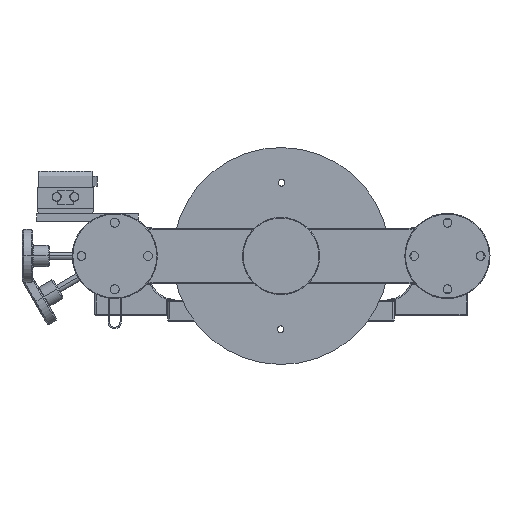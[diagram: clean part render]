
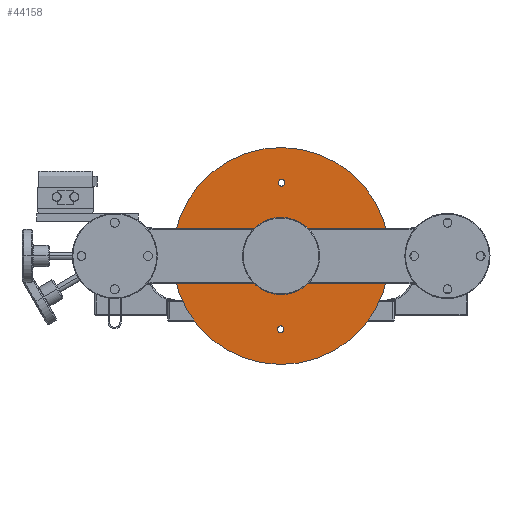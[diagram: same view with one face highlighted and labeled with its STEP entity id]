
A CAD part, front view. The second image highlights one B-rep face of the part: STEP entity #44158.
In plain terms, the highlighted planar face has unit normal (0, -1, 0).
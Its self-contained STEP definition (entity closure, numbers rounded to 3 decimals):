
#278 = DIRECTION ( 'NONE',  ( 0., 1., 0. ) ) ;
#563 = EDGE_LOOP ( 'NONE', ( #15260, #5846 ) ) ;
#1085 = DIRECTION ( 'NONE',  ( 0., 0., 1. ) ) ;
#1777 = DIRECTION ( 'NONE',  ( 0., 0., 1. ) ) ;
#1778 = FACE_BOUND ( 'NONE', #44290, .T. ) ;
#1800 = CIRCLE ( 'NONE', #10730, 5.1 ) ;
#2670 = AXIS2_PLACEMENT_3D ( 'NONE', #29803, #6125, #33802 ) ;
#2733 = ORIENTED_EDGE ( 'NONE', *, *, #40631, .F. ) ;
#3628 = DIRECTION ( 'NONE',  ( 0., 0., 1. ) ) ;
#3715 = CARTESIAN_POINT ( 'NONE',  ( 0., -6.85, -55. ) ) ;
#3718 = ORIENTED_EDGE ( 'NONE', *, *, #46918, .T. ) ;
#5672 = CIRCLE ( 'NONE', #29832, 5.1 ) ;
#5846 = ORIENTED_EDGE ( 'NONE', *, *, #37529, .T. ) ;
#6125 = DIRECTION ( 'NONE',  ( 0., 1., 0. ) ) ;
#6214 = CARTESIAN_POINT ( 'NONE',  ( 0., -6.85, 0. ) ) ;
#6755 = VERTEX_POINT ( 'NONE', #27025 ) ;
#6803 = VERTEX_POINT ( 'NONE', #15450 ) ;
#7701 = DIRECTION ( 'NONE',  ( 0., 0., 1. ) ) ;
#8493 = EDGE_CURVE ( 'NONE', #14677, #23512, #19797, .T. ) ;
#9701 = DIRECTION ( 'NONE',  ( 0., 1., 0. ) ) ;
#9834 = CARTESIAN_POINT ( 'NONE',  ( 0., -6.85, -52.5 ) ) ;
#10190 = DIRECTION ( 'NONE',  ( 0., 0., 1. ) ) ;
#10730 = AXIS2_PLACEMENT_3D ( 'NONE', #33417, #9701, #37394 ) ;
#10743 = ORIENTED_EDGE ( 'NONE', *, *, #36026, .T. ) ;
#10805 = AXIS2_PLACEMENT_3D ( 'NONE', #51115, #27356, #3628 ) ;
#11557 = AXIS2_PLACEMENT_3D ( 'NONE', #36772, #13059, #40754 ) ;
#12017 = ORIENTED_EDGE ( 'NONE', *, *, #8493, .F. ) ;
#12306 = FACE_BOUND ( 'NONE', #20049, .T. ) ;
#12410 = CARTESIAN_POINT ( 'NONE',  ( 0., -6.85, 0. ) ) ;
#12823 = EDGE_CURVE ( 'NONE', #43390, #17070, #29440, .T. ) ;
#13059 = DIRECTION ( 'NONE',  ( 0., 1., 0. ) ) ;
#13845 = DIRECTION ( 'NONE',  ( 0., 1., 0. ) ) ;
#14212 = EDGE_CURVE ( 'NONE', #6803, #46799, #33792, .T. ) ;
#14638 = CIRCLE ( 'NONE', #35273, 81.5 ) ;
#14677 = VERTEX_POINT ( 'NONE', #29093 ) ;
#15182 = AXIS2_PLACEMENT_3D ( 'NONE', #48549, #24805, #1085 ) ;
#15260 = ORIENTED_EDGE ( 'NONE', *, *, #14212, .T. ) ;
#15450 = CARTESIAN_POINT ( 'NONE',  ( -55., -6.85, 2.5 ) ) ;
#16251 = CARTESIAN_POINT ( 'NONE',  ( 0., -6.85, -55. ) ) ;
#16418 = DIRECTION ( 'NONE',  ( 0., 0., 1. ) ) ;
#16937 = CIRCLE ( 'NONE', #48615, 2.5 ) ;
#17070 = VERTEX_POINT ( 'NONE', #9834 ) ;
#19797 = CIRCLE ( 'NONE', #49217, 81.5 ) ;
#20049 = EDGE_LOOP ( 'NONE', ( #23930, #3718 ) ) ;
#20212 = DIRECTION ( 'NONE',  ( 0., 0., 1. ) ) ;
#20757 = DIRECTION ( 'NONE',  ( 0., 1., 0. ) ) ;
#21006 = VERTEX_POINT ( 'NONE', #30492 ) ;
#21247 = EDGE_CURVE ( 'NONE', #21006, #32940, #44738, .T. ) ;
#23512 = VERTEX_POINT ( 'NONE', #44850 ) ;
#23930 = ORIENTED_EDGE ( 'NONE', *, *, #21247, .T. ) ;
#24028 = CARTESIAN_POINT ( 'NONE',  ( 0., -6.85, 0. ) ) ;
#24096 = FACE_BOUND ( 'NONE', #563, .T. ) ;
#24805 = DIRECTION ( 'NONE',  ( 0., 1., 0. ) ) ;
#24836 = CARTESIAN_POINT ( 'NONE',  ( 55., -6.85, 2.5 ) ) ;
#25083 = ORIENTED_EDGE ( 'NONE', *, *, #12823, .T. ) ;
#25423 = CARTESIAN_POINT ( 'NONE',  ( 0., -6.85, 52.5 ) ) ;
#25509 = DIRECTION ( 'NONE',  ( 0., 1., 0. ) ) ;
#25813 = VERTEX_POINT ( 'NONE', #45785 ) ;
#26590 = EDGE_CURVE ( 'NONE', #27794, #25813, #5672, .T. ) ;
#26819 = CARTESIAN_POINT ( 'NONE',  ( 0., -6.85, 5.1 ) ) ;
#27025 = CARTESIAN_POINT ( 'NONE',  ( 55., -6.85, -2.5 ) ) ;
#27356 = DIRECTION ( 'NONE',  ( 0., 1., 0. ) ) ;
#27794 = VERTEX_POINT ( 'NONE', #26819 ) ;
#27992 = DIRECTION ( 'NONE',  ( 0., 0., 1. ) ) ;
#29093 = CARTESIAN_POINT ( 'NONE',  ( 0., -6.85, 81.5 ) ) ;
#29440 = CIRCLE ( 'NONE', #49442, 2.5 ) ;
#29803 = CARTESIAN_POINT ( 'NONE',  ( -55., -6.85, 0. ) ) ;
#29832 = AXIS2_PLACEMENT_3D ( 'NONE', #12410, #40102, #16418 ) ;
#30392 = CIRCLE ( 'NONE', #11557, 2.5 ) ;
#30492 = CARTESIAN_POINT ( 'NONE',  ( 0., -6.85, 57.5 ) ) ;
#30917 = EDGE_CURVE ( 'NONE', #39105, #6755, #37576, .T. ) ;
#31213 = AXIS2_PLACEMENT_3D ( 'NONE', #49249, #25509, #1777 ) ;
#31401 = DIRECTION ( 'NONE',  ( 0., 1., 0. ) ) ;
#32009 = AXIS2_PLACEMENT_3D ( 'NONE', #16251, #43936, #20212 ) ;
#32081 = ORIENTED_EDGE ( 'NONE', *, *, #30917, .T. ) ;
#32192 = ORIENTED_EDGE ( 'NONE', *, *, #47864, .T. ) ;
#32521 = CARTESIAN_POINT ( 'NONE',  ( 0., -6.85, 0. ) ) ;
#32940 = VERTEX_POINT ( 'NONE', #25423 ) ;
#33298 = CARTESIAN_POINT ( 'NONE',  ( 0., -6.85, -57.5 ) ) ;
#33417 = CARTESIAN_POINT ( 'NONE',  ( 0., -6.85, 0. ) ) ;
#33792 = CIRCLE ( 'NONE', #2670, 2.5 ) ;
#33802 = DIRECTION ( 'NONE',  ( 0., 0., 1. ) ) ;
#33894 = DIRECTION ( 'NONE',  ( 0., 1., 0. ) ) ;
#35273 = AXIS2_PLACEMENT_3D ( 'NONE', #24028, #278, #27992 ) ;
#36026 = EDGE_CURVE ( 'NONE', #25813, #27794, #1800, .T. ) ;
#36772 = CARTESIAN_POINT ( 'NONE',  ( 55., -6.85, 0. ) ) ;
#37394 = DIRECTION ( 'NONE',  ( 0., 0., 1. ) ) ;
#37529 = EDGE_CURVE ( 'NONE', #46799, #6803, #49336, .T. ) ;
#37534 = CARTESIAN_POINT ( 'NONE',  ( 0., -6.85, 55. ) ) ;
#37576 = CIRCLE ( 'NONE', #10805, 2.5 ) ;
#38480 = ORIENTED_EDGE ( 'NONE', *, *, #43318, .T. ) ;
#38484 = AXIS2_PLACEMENT_3D ( 'NONE', #32521, #20757, #48496 ) ;
#39105 = VERTEX_POINT ( 'NONE', #24836 ) ;
#39861 = EDGE_LOOP ( 'NONE', ( #32192, #25083 ) ) ;
#40102 = DIRECTION ( 'NONE',  ( 0., 1., 0. ) ) ;
#40146 = CARTESIAN_POINT ( 'NONE',  ( -55., -6.85, -2.5 ) ) ;
#40297 = EDGE_LOOP ( 'NONE', ( #42356, #10743 ) ) ;
#40631 = EDGE_CURVE ( 'NONE', #23512, #14677, #14638, .T. ) ;
#40754 = DIRECTION ( 'NONE',  ( 0., 0., 1. ) ) ;
#41510 = DIRECTION ( 'NONE',  ( 0., 0., 1. ) ) ;
#42356 = ORIENTED_EDGE ( 'NONE', *, *, #26590, .T. ) ;
#42656 = FACE_OUTER_BOUND ( 'NONE', #44269, .T. ) ;
#43318 = EDGE_CURVE ( 'NONE', #6755, #39105, #30392, .T. ) ;
#43390 = VERTEX_POINT ( 'NONE', #33298 ) ;
#43908 = FACE_BOUND ( 'NONE', #39861, .T. ) ;
#43936 = DIRECTION ( 'NONE',  ( 0., 1., 0. ) ) ;
#44158 = ADVANCED_FACE ( 'NONE', ( #45160, #43908, #24096, #12306, #1778, #42656 ), #44499, .F. ) ;
#44269 = EDGE_LOOP ( 'NONE', ( #2733, #12017 ) ) ;
#44290 = EDGE_LOOP ( 'NONE', ( #32081, #38480 ) ) ;
#44499 = PLANE ( 'NONE',  #38484 ) ;
#44738 = CIRCLE ( 'NONE', #31213, 2.5 ) ;
#44850 = CARTESIAN_POINT ( 'NONE',  ( 0., -6.85, -81.5 ) ) ;
#45160 = FACE_BOUND ( 'NONE', #40297, .T. ) ;
#45785 = CARTESIAN_POINT ( 'NONE',  ( 0., -6.85, -5.1 ) ) ;
#46799 = VERTEX_POINT ( 'NONE', #40146 ) ;
#46918 = EDGE_CURVE ( 'NONE', #32940, #21006, #16937, .T. ) ;
#47864 = EDGE_CURVE ( 'NONE', #17070, #43390, #50851, .T. ) ;
#48496 = DIRECTION ( 'NONE',  ( 0., 0., 1. ) ) ;
#48549 = CARTESIAN_POINT ( 'NONE',  ( -55., -6.85, 0. ) ) ;
#48615 = AXIS2_PLACEMENT_3D ( 'NONE', #37534, #13845, #41510 ) ;
#49217 = AXIS2_PLACEMENT_3D ( 'NONE', #6214, #33894, #10190 ) ;
#49249 = CARTESIAN_POINT ( 'NONE',  ( 0., -6.85, 55. ) ) ;
#49336 = CIRCLE ( 'NONE', #15182, 2.5 ) ;
#49442 = AXIS2_PLACEMENT_3D ( 'NONE', #3715, #31401, #7701 ) ;
#50851 = CIRCLE ( 'NONE', #32009, 2.5 ) ;
#51115 = CARTESIAN_POINT ( 'NONE',  ( 55., -6.85, 0. ) ) ;
